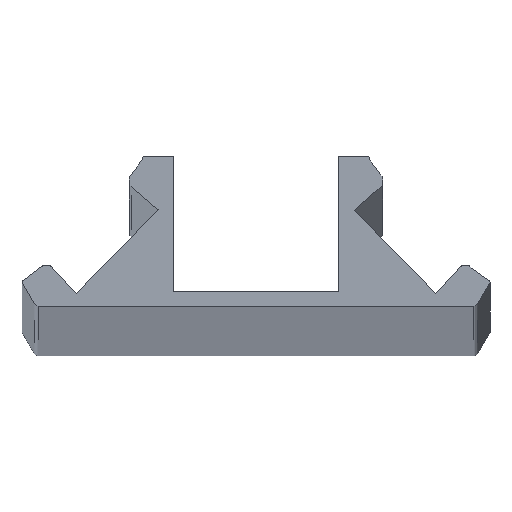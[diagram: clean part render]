
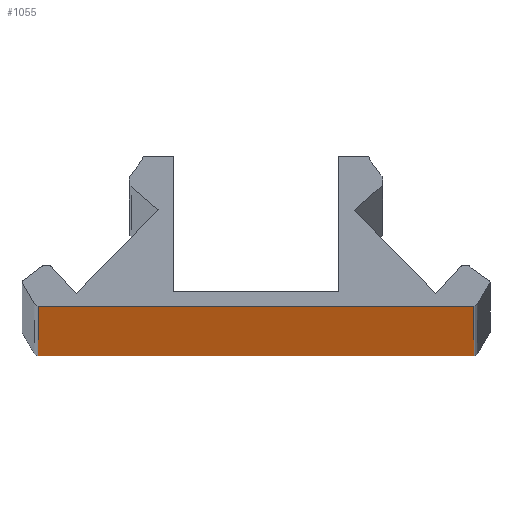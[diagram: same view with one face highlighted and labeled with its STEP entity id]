
A CAD part, top view. The second image highlights one B-rep face of the part: STEP entity #1055.
In plain terms, the highlighted planar face has unit normal (0, -1, 0).
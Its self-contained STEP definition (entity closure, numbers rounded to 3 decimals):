
#104=FACE_OUTER_BOUND('',#157,.T.);
#157=EDGE_LOOP('',(#890,#891,#892,#893));
#222=LINE('',#1574,#345);
#278=LINE('',#1725,#401);
#279=LINE('',#1728,#402);
#280=LINE('',#1729,#403);
#345=VECTOR('',#1253,45.69);
#401=VECTOR('',#1409,3000.);
#402=VECTOR('',#1412,45.69);
#403=VECTOR('',#1413,3000.);
#464=VERTEX_POINT('',#1571);
#465=VERTEX_POINT('',#1573);
#510=VERTEX_POINT('',#1723);
#511=VERTEX_POINT('',#1727);
#577=EDGE_CURVE('',#464,#465,#222,.T.);
#655=EDGE_CURVE('',#510,#465,#278,.T.);
#656=EDGE_CURVE('',#510,#511,#279,.T.);
#657=EDGE_CURVE('',#511,#464,#280,.T.);
#890=ORIENTED_EDGE('',*,*,#656,.F.);
#891=ORIENTED_EDGE('',*,*,#655,.T.);
#892=ORIENTED_EDGE('',*,*,#577,.F.);
#893=ORIENTED_EDGE('',*,*,#657,.F.);
#1003=PLANE('',#1139);
#1055=ADVANCED_FACE('',(#104),#1003,.T.);
#1139=AXIS2_PLACEMENT_3D('',#1726,#1410,#1411);
#1253=DIRECTION('',(1.,0.,0.));
#1409=DIRECTION('',(0.,0.,1.));
#1410=DIRECTION('center_axis',(0.,-1.,0.));
#1411=DIRECTION('ref_axis',(1.,0.,0.));
#1412=DIRECTION('',(-1.,0.,0.));
#1413=DIRECTION('',(0.,0.,1.));
#1571=CARTESIAN_POINT('',(-18.838,0.153,3000.));
#1573=CARTESIAN_POINT('',(26.852,0.153,3000.));
#1574=CARTESIAN_POINT('',(26.852,0.153,3000.));
#1723=CARTESIAN_POINT('',(26.852,0.153,0.));
#1725=CARTESIAN_POINT('',(26.852,0.153,0.));
#1726=CARTESIAN_POINT('Origin',(-18.838,0.153,0.));
#1727=CARTESIAN_POINT('',(-18.838,0.153,0.));
#1728=CARTESIAN_POINT('',(26.852,0.153,0.));
#1729=CARTESIAN_POINT('',(-18.838,0.153,0.));
